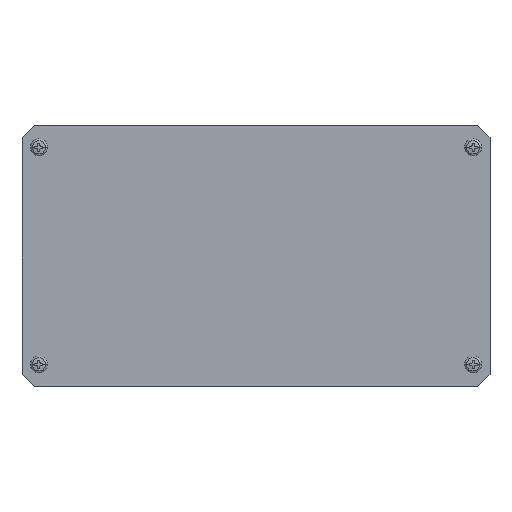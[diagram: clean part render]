
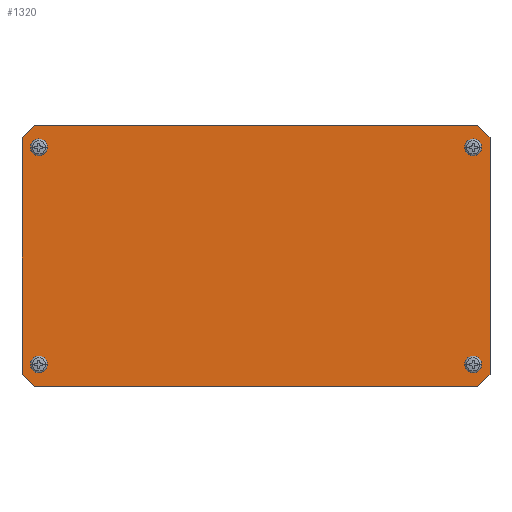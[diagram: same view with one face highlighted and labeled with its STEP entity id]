
A CAD part, top view. The second image highlights one B-rep face of the part: STEP entity #1320.
In plain terms, the highlighted planar face has unit normal (0, 0, 1).
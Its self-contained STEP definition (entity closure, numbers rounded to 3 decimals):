
#10=CARTESIAN_POINT('',(0.,0.,0.));
#20=DIRECTION('',(0.,0.,1.));
#30=DIRECTION('',(1.,0.,0.));
#40=AXIS2_PLACEMENT_3D('',#10,#20,#30);
#50=PLANE('',#40);
#60=CARTESIAN_POINT('',(-94.879,194.647,0.));
#70=DIRECTION('',(-0.707,-0.707,0.));
#80=VECTOR('',#70,1.);
#90=LINE('',#60,#80);
#100=CARTESIAN_POINT('',(-94.879,194.647,0.));
#110=VERTEX_POINT('',#100);
#120=CARTESIAN_POINT('',(-99.879,189.647,0.));
#130=VERTEX_POINT('',#120);
#140=EDGE_CURVE('',#110,#130,#90,.T.);
#150=ORIENTED_EDGE('',*,*,#140,.T.);
#160=CARTESIAN_POINT('',(-94.879,194.647,0.));
#170=DIRECTION('',(1.,0.,0.));
#180=VECTOR('',#170,1.);
#190=LINE('',#160,#180);
#200=CARTESIAN_POINT('',(89.121,194.647,0.));
#210=VERTEX_POINT('',#200);
#220=EDGE_CURVE('',#110,#210,#190,.T.);
#230=ORIENTED_EDGE('',*,*,#220,.F.);
#240=CARTESIAN_POINT('',(89.121,194.647,0.));
#250=DIRECTION('',(0.707,-0.707,0.));
#260=VECTOR('',#250,1.);
#270=LINE('',#240,#260);
#280=CARTESIAN_POINT('',(94.121,189.647,0.));
#290=VERTEX_POINT('',#280);
#300=EDGE_CURVE('',#210,#290,#270,.T.);
#310=ORIENTED_EDGE('',*,*,#300,.F.);
#320=CARTESIAN_POINT('',(94.121,189.647,0.));
#330=DIRECTION('',(0.,-1.,0.));
#340=VECTOR('',#330,1.);
#350=LINE('',#320,#340);
#360=CARTESIAN_POINT('',(94.121,91.647,0.));
#370=VERTEX_POINT('',#360);
#380=EDGE_CURVE('',#290,#370,#350,.T.);
#390=ORIENTED_EDGE('',*,*,#380,.F.);
#400=CARTESIAN_POINT('',(94.121,91.647,0.));
#410=DIRECTION('',(-0.707,-0.707,0.));
#420=VECTOR('',#410,1.);
#430=LINE('',#400,#420);
#440=CARTESIAN_POINT('',(89.121,86.647,0.));
#450=VERTEX_POINT('',#440);
#460=EDGE_CURVE('',#370,#450,#430,.T.);
#470=ORIENTED_EDGE('',*,*,#460,.F.);
#480=CARTESIAN_POINT('',(89.121,86.647,0.));
#490=DIRECTION('',(-1.,0.,0.));
#500=VECTOR('',#490,1.);
#510=LINE('',#480,#500);
#520=CARTESIAN_POINT('',(-94.879,86.647,0.));
#530=VERTEX_POINT('',#520);
#540=EDGE_CURVE('',#450,#530,#510,.T.);
#550=ORIENTED_EDGE('',*,*,#540,.F.);
#560=CARTESIAN_POINT('',(-94.879,86.647,0.));
#570=DIRECTION('',(-0.707,0.707,0.));
#580=VECTOR('',#570,1.);
#590=LINE('',#560,#580);
#600=CARTESIAN_POINT('',(-99.879,91.647,0.));
#610=VERTEX_POINT('',#600);
#620=EDGE_CURVE('',#530,#610,#590,.T.);
#630=ORIENTED_EDGE('',*,*,#620,.F.);
#640=CARTESIAN_POINT('',(-99.879,91.647,0.));
#650=DIRECTION('',(0.,1.,0.));
#660=VECTOR('',#650,1.);
#670=LINE('',#640,#660);
#680=EDGE_CURVE('',#610,#130,#670,.T.);
#690=ORIENTED_EDGE('',*,*,#680,.F.);
#700=EDGE_LOOP('',(#690,#630,#550,#470,#390,#310,#230,#150));
#710=FACE_OUTER_BOUND('',#700,.T.);
#720=CARTESIAN_POINT('',(87.121,185.647,0.));
#730=DIRECTION('',(0.,0.,1.));
#740=DIRECTION('',(1.,0.,0.));
#750=AXIS2_PLACEMENT_3D('',#720,#730,#740);
#760=CIRCLE('',#750,1.75);
#770=CARTESIAN_POINT('',(88.871,185.647,0.));
#780=VERTEX_POINT('',#770);
#790=CARTESIAN_POINT('',(85.371,185.647,0.));
#800=VERTEX_POINT('',#790);
#810=EDGE_CURVE('',#780,#800,#760,.T.);
#820=ORIENTED_EDGE('',*,*,#810,.F.);
#830=EDGE_CURVE('',#800,#780,#760,.T.);
#840=ORIENTED_EDGE('',*,*,#830,.F.);
#850=EDGE_LOOP('',(#840,#820));
#860=FACE_BOUND('',#850,.T.);
#870=CARTESIAN_POINT('',(-92.879,95.647,0.));
#880=DIRECTION('',(0.,0.,1.));
#890=DIRECTION('',(1.,0.,0.));
#900=AXIS2_PLACEMENT_3D('',#870,#880,#890);
#910=CIRCLE('',#900,1.75);
#920=CARTESIAN_POINT('',(-91.129,95.647,0.));
#930=VERTEX_POINT('',#920);
#940=CARTESIAN_POINT('',(-94.629,95.647,0.));
#950=VERTEX_POINT('',#940);
#960=EDGE_CURVE('',#930,#950,#910,.T.);
#970=ORIENTED_EDGE('',*,*,#960,.F.);
#980=EDGE_CURVE('',#950,#930,#910,.T.);
#990=ORIENTED_EDGE('',*,*,#980,.F.);
#1000=EDGE_LOOP('',(#990,#970));
#1010=FACE_BOUND('',#1000,.T.);
#1020=CARTESIAN_POINT('',(-92.879,185.647,0.));
#1030=DIRECTION('',(0.,0.,1.));
#1040=DIRECTION('',(1.,0.,0.));
#1050=AXIS2_PLACEMENT_3D('',#1020,#1030,#1040);
#1060=CIRCLE('',#1050,1.75);
#1070=CARTESIAN_POINT('',(-91.129,185.647,0.));
#1080=VERTEX_POINT('',#1070);
#1090=CARTESIAN_POINT('',(-94.629,185.647,0.));
#1100=VERTEX_POINT('',#1090);
#1110=EDGE_CURVE('',#1080,#1100,#1060,.T.);
#1120=ORIENTED_EDGE('',*,*,#1110,.F.);
#1130=EDGE_CURVE('',#1100,#1080,#1060,.T.);
#1140=ORIENTED_EDGE('',*,*,#1130,.F.);
#1150=EDGE_LOOP('',(#1140,#1120));
#1160=FACE_BOUND('',#1150,.T.);
#1170=CARTESIAN_POINT('',(87.121,95.647,0.));
#1180=DIRECTION('',(0.,0.,1.));
#1190=DIRECTION('',(1.,0.,0.));
#1200=AXIS2_PLACEMENT_3D('',#1170,#1180,#1190);
#1210=CIRCLE('',#1200,1.75);
#1220=CARTESIAN_POINT('',(88.871,95.647,0.));
#1230=VERTEX_POINT('',#1220);
#1240=CARTESIAN_POINT('',(85.371,95.647,0.));
#1250=VERTEX_POINT('',#1240);
#1260=EDGE_CURVE('',#1230,#1250,#1210,.T.);
#1270=ORIENTED_EDGE('',*,*,#1260,.F.);
#1280=EDGE_CURVE('',#1250,#1230,#1210,.T.);
#1290=ORIENTED_EDGE('',*,*,#1280,.F.);
#1300=EDGE_LOOP('',(#1290,#1270));
#1310=FACE_BOUND('',#1300,.T.);
#1320=ADVANCED_FACE('',(#710,#860,#1010,#1160,#1310),#50,.T.);
